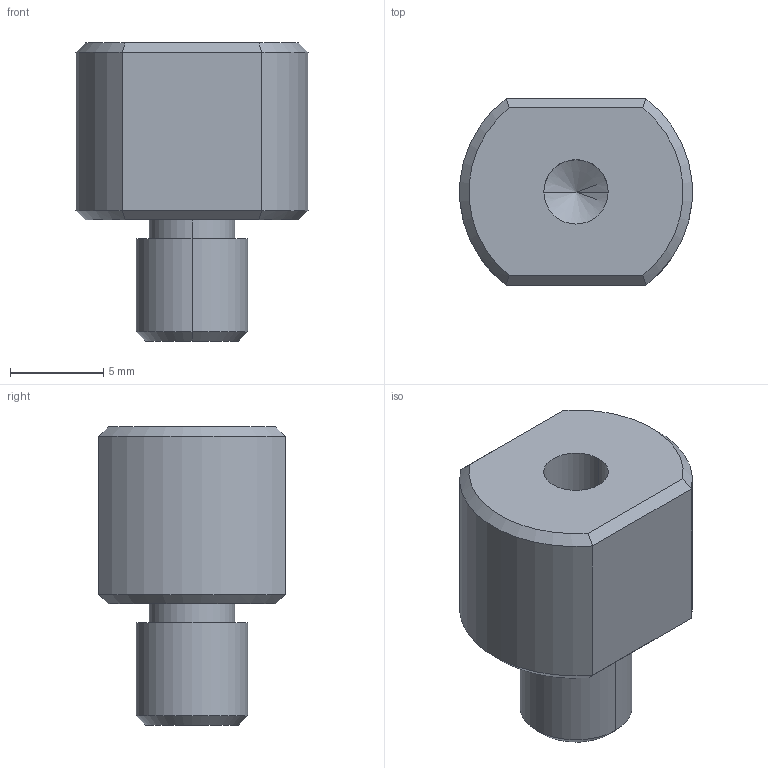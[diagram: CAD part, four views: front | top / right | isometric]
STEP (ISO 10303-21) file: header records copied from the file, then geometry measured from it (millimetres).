
FILE_DESCRIPTION (( 'STEP AP203' ), '1' );
FILE_NAME ('TAIE8M6.STEP', '2022-01-26T09:47:12', ( '' ), ( '' ), 'SwSTEP 2.0', 'SolidWorks 2019', '' );
FILE_SCHEMA (( 'CONFIG_CONTROL_DESIGN' ));
Length unit declared in the file: millimetre
Products named in the file (1): TAIE8M6
Bounding box: 12.46 x 10 x 16 mm (x, y, z)
Volume: 1136.3 mm3; surface area: 772.7 mm2
Topology: 1 solids, 1 shells, 26 faces, 54 edges, 31 vertices
Faces by surface type: plane 10, cylinder 8, cone 8
Entity records: 755 total; most frequent: CARTESIAN_POINT 134, DIRECTION 120, ORIENTED_EDGE 104, EDGE_CURVE 52, AXIS2_PLACEMENT_3D 49, VERTEX_POINT 31, EDGE_LOOP 29, ADVANCED_FACE 26
